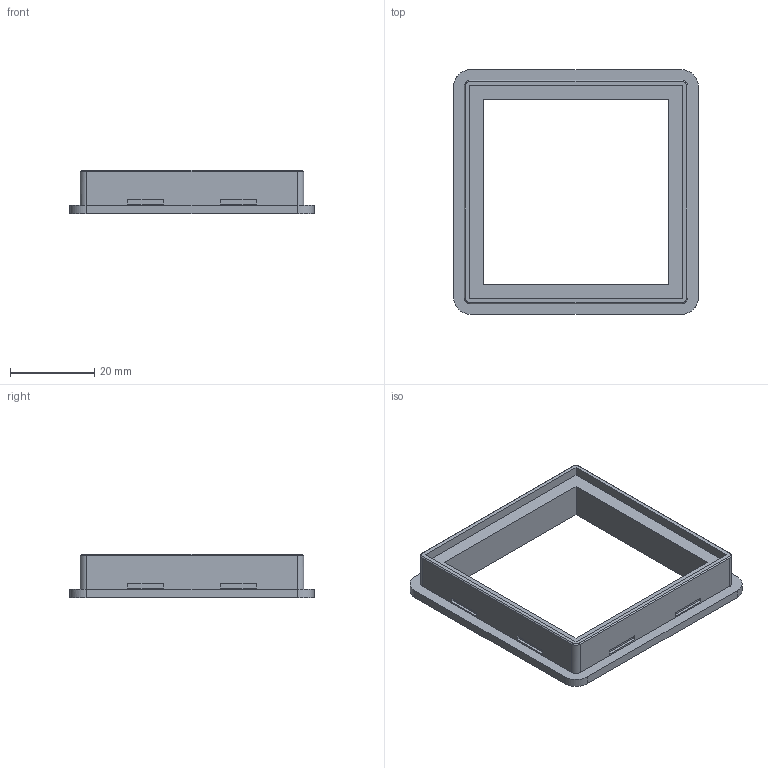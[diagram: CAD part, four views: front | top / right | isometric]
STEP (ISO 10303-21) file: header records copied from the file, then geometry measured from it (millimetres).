
FILE_DESCRIPTION(('FreeCAD Model'),'2;1');
FILE_NAME('Open CASCADE Shape Model','2026-10-03T19:08:44',('Author'),( ''),'Open CASCADE STEP processor 7.8','FreeCAD','Unknown');
FILE_SCHEMA(('AUTOMOTIVE_DESIGN { 1 0 10303 214 1 1 1 1 }'));
Length unit declared in the file: millimetre
Products named in the file (1): OPTIONAL_StrongLockV2_Base_Rim_Test
Bounding box: 58 x 58 x 10.4 mm (x, y, z)
Volume: 8716.8 mm3; surface area: 6995.5 mm2
Topology: 1 solids, 1 shells, 76 faces, 184 edges, 120 vertices
Faces by surface type: bspline 76
Entity records: 2006 total; most frequent: CARTESIAN_POINT 837, ORIENTED_EDGE 368, EDGE_CURVE 184, B_SPLINE_CURVE_WITH_KNOTS 164, VERTEX_POINT 120, FACE_BOUND 88, EDGE_LOOP 88, ADVANCED_FACE 76
